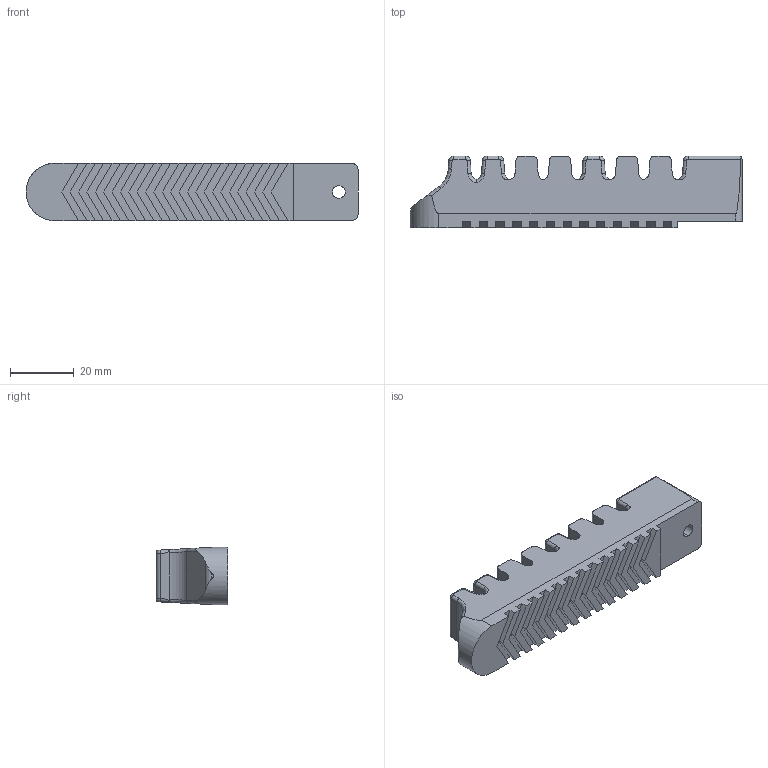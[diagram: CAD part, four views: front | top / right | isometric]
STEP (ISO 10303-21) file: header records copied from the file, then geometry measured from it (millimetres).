
FILE_DESCRIPTION (( 'STEP AP214' ), '1' );
FILE_NAME ('B8.STEP', '2019-12-04T07:42:09', ( '微软用户' ), ( '微软中国' ), 'SwSTEP 2.0', 'SolidWorks 2016', '' );
FILE_SCHEMA (( 'AUTOMOTIVE_DESIGN' ));
Length unit declared in the file: millimetre
Products named in the file (1): B8
Bounding box: 104.03 x 22.5 x 18 mm (x, y, z)
Volume: 32582.7 mm3; surface area: 10455.1 mm2
Topology: 1 solids, 1 shells, 200 faces, 547 edges, 349 vertices
Faces by surface type: plane 111, cylinder 61, bspline 28
Entity records: 10031 total; most frequent: CARTESIAN_POINT 3141, ORIENTED_EDGE 1094, DIRECTION 826, EDGE_CURVE 547, LINE 382, VECTOR 382, VERTEX_POINT 349, AXIS2_PLACEMENT_3D 222
